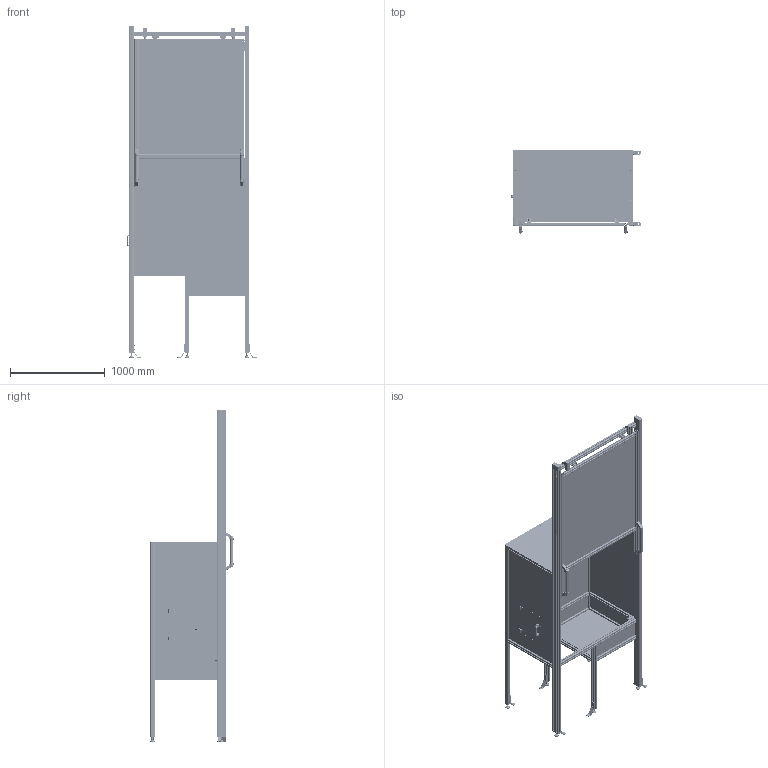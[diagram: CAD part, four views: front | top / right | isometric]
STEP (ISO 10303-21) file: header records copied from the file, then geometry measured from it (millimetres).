
FILE_DESCRIPTION(/* description */ ('Ensemble'),/* implementation_level */ '2;1');
FILE_NAME(/* name */ 'C:\MY DOCUMENTS\WEBSITE\DREAMWEAVER\MiniTec\application_pages\machine_guards_2016\MACHINE GUARD WITH COUNTERWEIGHTED DOOR\MH110819-1-SAFRAN-FR00051958.stp',/* time_stamp */ '2022-09-28T09:41:52-04:00',/* author */ ('amoles'),/* organization */ (''),/* preprocessor_version */ 'ST-DEVELOPER v18.1',/* originating_system */ 'Autodesk Inventor 2022',/* authorisation */ '');
FILE_SCHEMA (('AUTOMOTIVE_DESIGN { 1 0 10303 214 3 1 1 }'));
Products named in the file (113): MH110819-1-SAFRAN-FR00051958; FR00051975; FR00051979; FR00001990; FR00001992; FR00001991; FR00052003; FR00002051; FR00002053; FR00002055; FR00002054; FR00002052; FR00002626; FR00002633; FR00002631; FR00002629; FR00002630; FR00002627; FR00002632; FR00002628; FR00002634; FR00052010; FR00051981; mh110819-1-10; FR00052016; FR00052018; MH110819-1-12; FR00002227; FR00002231; FR00002230; FR00002229; FR00051977; FR00001035; FR00001038; FR00001037; FR00001036; FR00001039; FR00052063; FR00052069; FR00051983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
Assembly tree (199 placements, depth 5):
  MH110819-1-SAFRAN-FR00051958
    FR00051975  x2
    FR00051977  x5
    FR00051979  x2
    FR00051981  x6
    FR00001990  x2
      FR00001992
      FR00001991
    FR00002051  x6
      FR00002053
      FR00002055
      FR00002054
      FR00002052
    FR00052003  x2
    FR00002626  x2
      FR00002633
      FR00002631
      FR00002629
      FR00002630
      FR00002628
      FR00002627
      FR00002632
      FR00002634
    FR00052010  x2
    mh110819-1-10
    FR00052016  x2
    FR00052018
    MH110819-1-12
    FR00002227  x6
      FR00002231
      FR00002230
      FR00002229
    FR00001035  x2
      FR00001038
      FR00001037
      FR00001036
      FR00001039
    FR00052063  x2
    FR00052069
      FR00051983  x2
      FR00052056  x2
      FR00002642  x2
        FR00002645
        FR00002646
        FR00002647
        FR00002644
        FR00002643
      FR00002733  x4
        FR00002739
        FR00002740
        FR00002738
        FR00002735
        FR00002737
        FR00002736
        FR00002734
      21.1830 CLEAR POLYCARB .22 IN_FRONT DOOR
      FR00001559  x2
        FR00001561
        FR00001565
        FR00001562
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Bounding box: 1360.21 x 875.95 x 3498 mm (x, y, z)
Volume: 41369132.2 mm3; surface area: 32742304.5 mm2
Topology: 320 solids, 328 shells, 11820 faces, 32002 edges, 21018 vertices
Faces by surface type: plane 6295, cylinder 4289, cone 544, torus 353, bspline 175, sphere 164
Full cylindrical faces by diameter (mm): 1.85 x12, 2 x3, 3 x2, 3.242 x8, 3.4 x2, 3.5 x3, 3.8 x1, 3.99 x8, 4 x60, 4.134 x9, 4.2 x4, 4.3 x12, 4.5 x10, 5 x8, 5.005 x1, 5.348 x1, 5.5 x14, 6 x47, 6.4 x4, 6.5 x24, 6.6 x4, 6.647 x8, 7 x32, 7.2 x16, 7.53 x20, 8 x92, 8.2 x2, 8.376 x8, 8.4 x12, 8.5 x14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
Entity records: 137884 total; most frequent: CARTESIAN_POINT 29767, DIRECTION 22272, ORIENTED_EDGE 21488, EDGE_CURVE 10744, AXIS2_PLACEMENT_3D 7758, VERTEX_POINT 7090, LINE 6756, VECTOR 6756
